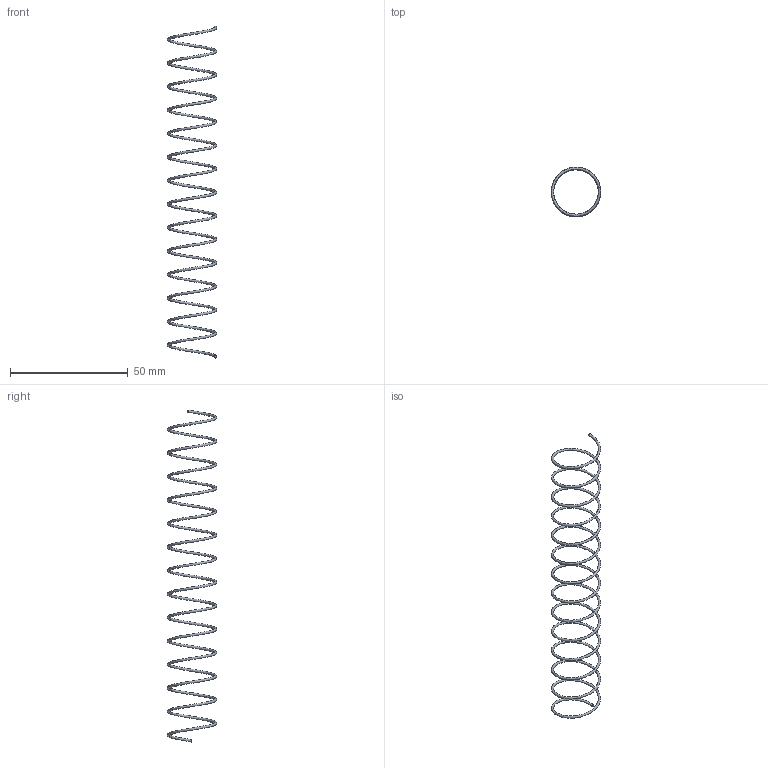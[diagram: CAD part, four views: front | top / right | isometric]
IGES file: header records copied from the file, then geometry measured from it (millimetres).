
Start section: Missler Software BP 521, 31674 Labege Cedex, France Tel   : +33 (0)5 61 00 03 00 Fax   : +33 (0)5 61 00 03 03 Email : sup.topsolid@topsolid.com
Global section: file name: D:\Cuma\25 06 2009\D60.01\D60.01_20\D60.01_20140.igs; native system: TopSolid v605250 Missler Software; preprocessor: IGES preprocessor v100000; date: 030203.153915; units: millimetre
Bounding box: 21 x 21 x 141.27 mm (x, y, z)
Surface area: 2774.4 mm2 (no closed solid volume)
Topology: 0 solids, 0 shells, 3 faces, 27 edges, 26 vertices
Faces by surface type: bspline 3
